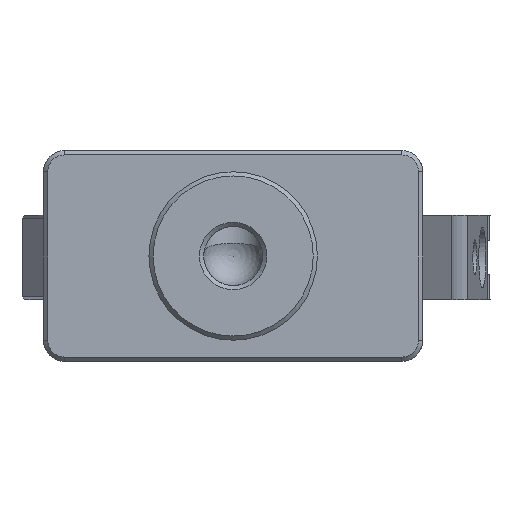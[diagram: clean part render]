
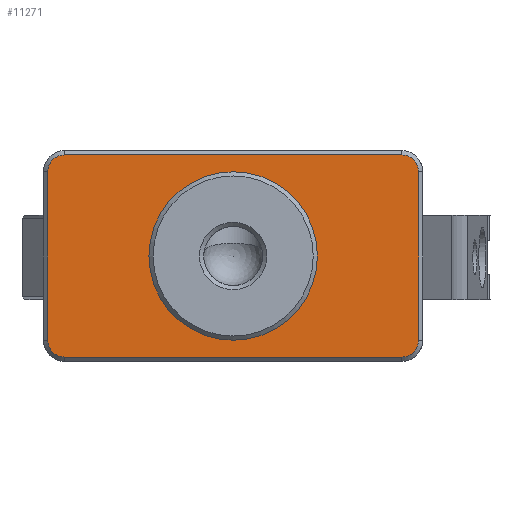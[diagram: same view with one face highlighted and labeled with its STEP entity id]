
A CAD part, front view. The second image highlights one B-rep face of the part: STEP entity #11271.
In plain terms, the highlighted planar face has unit normal (0, -1, 0).
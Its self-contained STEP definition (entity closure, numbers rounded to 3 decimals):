
#6497=FACE_BOUND('',#13122,.T.);
#6498=FACE_BOUND('',#13123,.T.);
#6748=PLANE('',#22710);
#7539=LINE('',#28346,#9387);
#7543=LINE('',#28353,#9391);
#7585=LINE('',#28596,#9433);
#7594=LINE('',#28732,#9442);
#9387=VECTOR('',#23924,1.);
#9391=VECTOR('',#23932,1.);
#9433=VECTOR('',#24094,1.);
#9442=VECTOR('',#24173,1.);
#11271=ADVANCED_FACE('',(#6497,#6498),#6748,.T.);
#13122=EDGE_LOOP('',(#14939,#14940,#14941,#14942,#14943,#14944,#14945,#14946));
#13123=EDGE_LOOP('',(#14947));
#14021=CIRCLE('',#22533,6.);
#14064=CIRCLE('',#22621,1.2);
#14066=CIRCLE('',#22625,1.2);
#14081=CIRCLE('',#22655,1.2);
#14083=CIRCLE('',#22659,1.2);
#14939=ORIENTED_EDGE('',*,*,#20383,.T.);
#14940=ORIENTED_EDGE('',*,*,#20493,.T.);
#14941=ORIENTED_EDGE('',*,*,#20496,.T.);
#14942=ORIENTED_EDGE('',*,*,#20497,.T.);
#14943=ORIENTED_EDGE('',*,*,#20387,.T.);
#14944=ORIENTED_EDGE('',*,*,#20471,.T.);
#14945=ORIENTED_EDGE('',*,*,#20469,.T.);
#14946=ORIENTED_EDGE('',*,*,#20466,.T.);
#14947=ORIENTED_EDGE('',*,*,#20335,.F.);
#18940=VERTEX_POINT('',#28231);
#18975=VERTEX_POINT('',#28345);
#18976=VERTEX_POINT('',#28347);
#18977=VERTEX_POINT('',#28354);
#18978=VERTEX_POINT('',#28355);
#19019=VERTEX_POINT('',#28587);
#19021=VERTEX_POINT('',#28593);
#19029=VERTEX_POINT('',#28726);
#19030=VERTEX_POINT('',#28731);
#20335=EDGE_CURVE('',#18940,#18940,#14021,.T.);
#20383=EDGE_CURVE('',#18976,#18975,#7539,.T.);
#20387=EDGE_CURVE('',#18977,#18978,#7543,.T.);
#20466=EDGE_CURVE('',#19019,#18976,#14064,.T.);
#20469=EDGE_CURVE('',#19021,#19019,#7585,.T.);
#20471=EDGE_CURVE('',#18978,#19021,#14066,.T.);
#20493=EDGE_CURVE('',#18975,#19029,#14081,.T.);
#20496=EDGE_CURVE('',#19029,#19030,#7594,.T.);
#20497=EDGE_CURVE('',#19030,#18977,#14083,.T.);
#22533=AXIS2_PLACEMENT_3D('',#28230,#23838,#23839);
#22621=AXIS2_PLACEMENT_3D('',#28590,#24088,#24089);
#22625=AXIS2_PLACEMENT_3D('',#28599,#24099,#24100);
#22655=AXIS2_PLACEMENT_3D('',#28727,#24166,#24167);
#22659=AXIS2_PLACEMENT_3D('',#28734,#24176,#24177);
#22710=AXIS2_PLACEMENT_3D('',#28984,#24289,#24290);
#23838=DIRECTION('',(0.,-1.,0.));
#23839=DIRECTION('',(1.,0.,0.));
#23924=DIRECTION('',(0.,0.,-1.));
#23932=DIRECTION('',(0.,0.,1.));
#24088=DIRECTION('',(0.,-1.,0.));
#24089=DIRECTION('',(0.,0.,-1.));
#24094=DIRECTION('',(-1.,0.,0.));
#24099=DIRECTION('',(0.,-1.,0.));
#24100=DIRECTION('',(0.,0.,-1.));
#24166=DIRECTION('',(0.,-1.,0.));
#24167=DIRECTION('',(0.,0.,-1.));
#24173=DIRECTION('',(1.,0.,0.));
#24176=DIRECTION('',(0.,-1.,0.));
#24177=DIRECTION('',(0.,0.,-1.));
#24289=DIRECTION('',(0.,-1.,0.));
#24290=DIRECTION('',(0.,0.,1.));
#28230=CARTESIAN_POINT('',(88.412,-23.942,74.9));
#28231=CARTESIAN_POINT('',(94.412,-23.942,74.9));
#28345=CARTESIAN_POINT('',(75.212,-23.942,68.9));
#28346=CARTESIAN_POINT('',(75.212,-23.942,82.4));
#28347=CARTESIAN_POINT('',(75.212,-23.942,80.9));
#28353=CARTESIAN_POINT('',(101.612,-23.942,82.4));
#28354=CARTESIAN_POINT('',(101.612,-23.942,68.9));
#28355=CARTESIAN_POINT('',(101.612,-23.942,80.9));
#28587=CARTESIAN_POINT('',(76.412,-23.942,82.1));
#28590=CARTESIAN_POINT('',(76.412,-23.942,80.9));
#28593=CARTESIAN_POINT('',(100.412,-23.942,82.1));
#28596=CARTESIAN_POINT('',(76.412,-23.942,82.1));
#28599=CARTESIAN_POINT('',(100.412,-23.942,80.9));
#28726=CARTESIAN_POINT('',(76.412,-23.942,67.7));
#28727=CARTESIAN_POINT('',(76.412,-23.942,68.9));
#28731=CARTESIAN_POINT('',(100.412,-23.942,67.7));
#28732=CARTESIAN_POINT('',(100.912,-23.942,67.7));
#28734=CARTESIAN_POINT('',(100.412,-23.942,68.9));
#28984=CARTESIAN_POINT('',(100.912,-23.942,82.4));
